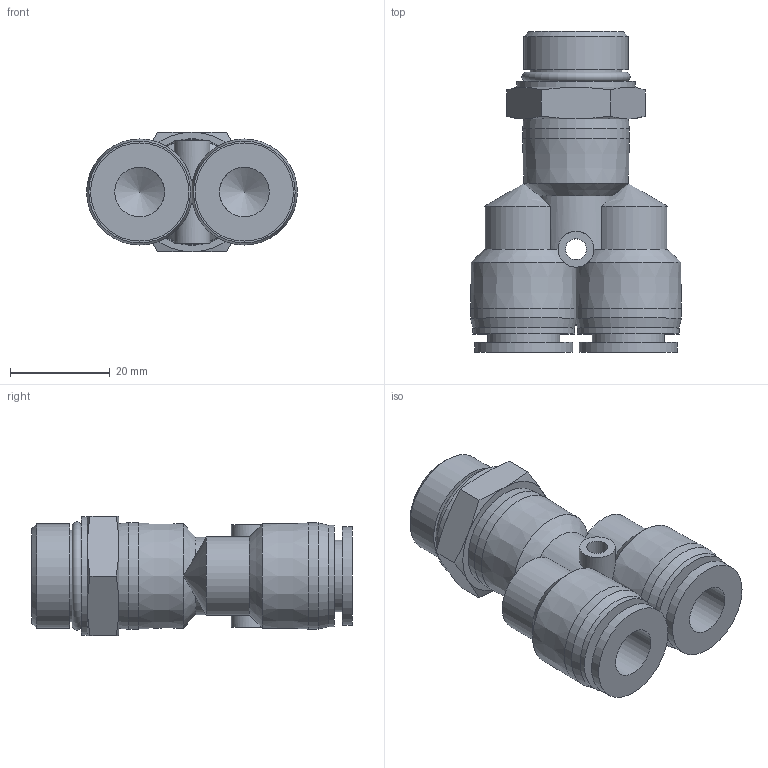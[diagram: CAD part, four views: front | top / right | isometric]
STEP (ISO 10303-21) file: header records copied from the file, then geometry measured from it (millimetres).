
FILE_DESCRIPTION(/* description */ (''),/* implementation_level */ '2;1');
FILE_NAME(/* name */ 'S:\_Tecnico\ArchivioUT\_Disegni3D ingombri\DISEGNI 3D per ingombri\RP\RP 74\RP741212.stp',/* time_stamp */ '2019-09-06T09:45:09+02:00',/* author */ ('ufficiotecnico3'),/* organization */ (''),/* preprocessor_version */ 'ST-DEVELOPER v18',/* originating_system */ 'Autodesk Inventor 2020',/* authorisation */ '');
FILE_SCHEMA (('AUTOMOTIVE_DESIGN { 1 0 10303 214 3 1 1 }'));
Length unit declared in the file: millimetre
Products named in the file (1): RP741212
Bounding box: 42.3 x 64.4 x 24 mm (x, y, z)
Volume: 20127.1 mm3; surface area: 12147.3 mm2
Topology: 1 solids, 2 shells, 76 faces, 199 edges, 129 vertices
Faces by surface type: cylinder 26, cone 25, plane 23, torus 2
Full cylindrical faces by diameter (mm): 4.2 x1, 6.403 x1, 7.2 x2, 10 x3, 14.4 x2, 15.4 x1, 18.4 x2, 19.7 x2, 20.4 x2, 20.955 x1, 21.4 x1, 23.8 x1
Entity records: 2677 total; most frequent: CARTESIAN_POINT 779, DIRECTION 397, ORIENTED_EDGE 390, EDGE_CURVE 195, AXIS2_PLACEMENT_3D 176, VERTEX_POINT 129, CIRCLE 99, EDGE_LOOP 90
